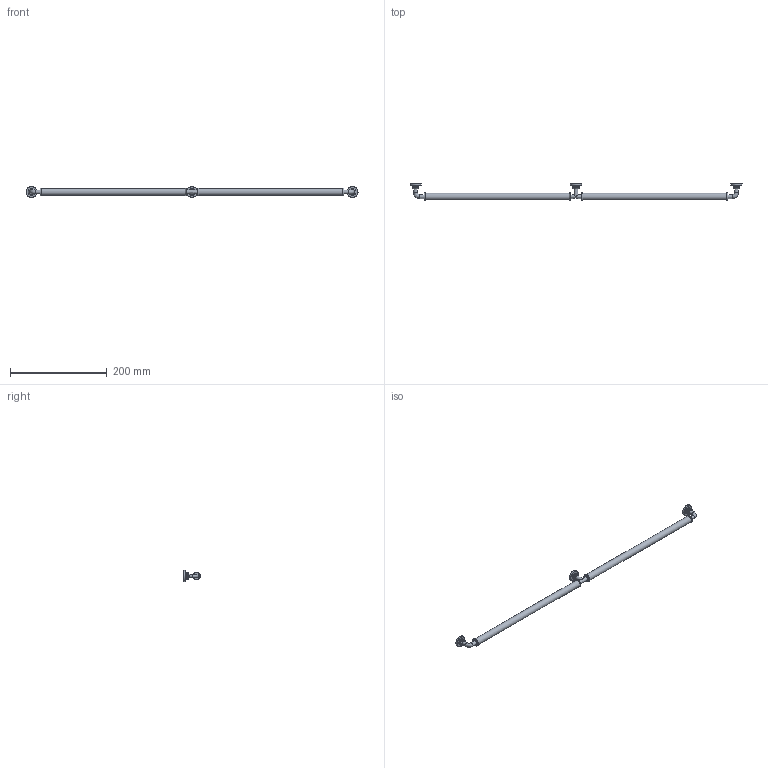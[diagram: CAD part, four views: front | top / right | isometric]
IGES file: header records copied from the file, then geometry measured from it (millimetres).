
Start section: Data from Parasolid IGES Translator 15.0.47, Copyright(c) 2006 Siemens P LM Software. All Rights Reserved.
Global section: file name: 9132277.igs; native system:  By UGS Corp.; preprocessor: XPlus GENERIC/IGES 3.0; author: Noname; organization: Noname; date: 20140122.102154; units: millimetre
Bounding box: 688 x 35 x 23 mm (x, y, z)
Surface area: 34162 mm2 (no closed solid volume)
Topology: 0 solids, 0 shells, 67 faces, 304 edges, 250 vertices
Faces by surface type: revolution 56, extrusion 11
